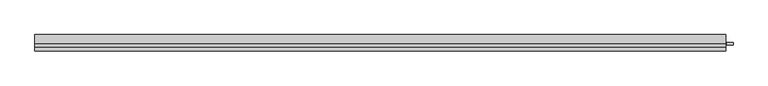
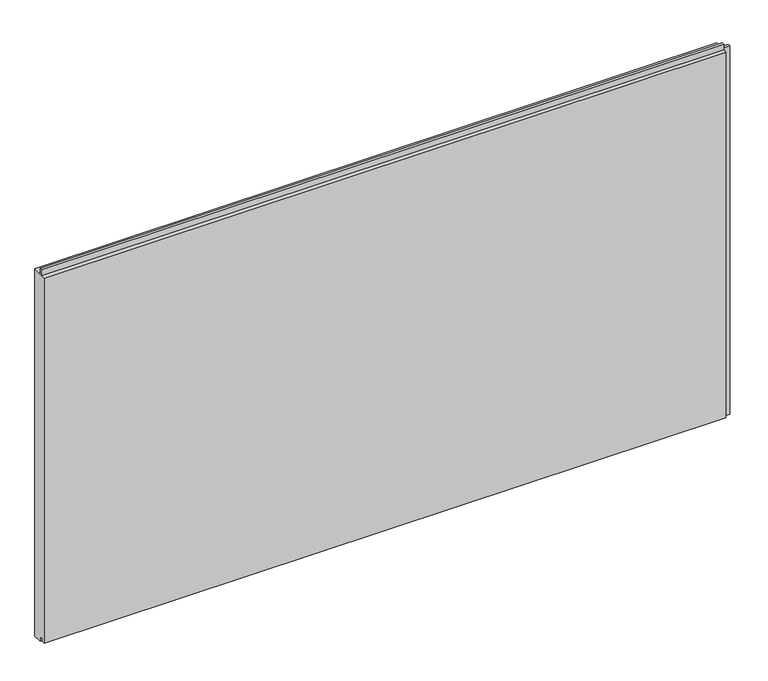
"""IFC4 building model written with IfcOpenShell, lengths in millimetres: plate geometry, Trimo_Qbiss Screen_Normal Panel-HORIZONTAL : HR - FB."""

import ifcopenshell
import ifcopenshell.guid

model = None  # the IFC model being written
_history = None  # IfcOwnerHistory: only IFC2X3 demands one
_inside = {}  # id of a spatial element -> (the spatial element, [elements in it])
_under = {}  # id of a project, library or spatial element -> (it, [spatial elements below it])
_declared = {}  # id of a project -> (the project, [libraries it declares])
_typed = {}  # id of a type object -> (the type object, [elements of that type])
_made_of = {}  # id of a material, layer set ... -> (it, [elements and type objects made of it])


def new_model(schema):
    """Start an empty IFC model of exactly this schema.

    Asked for "IFC4X3", IfcOpenShell would pick the latest addendum, in which some entities
    have other attributes; the version numbers below select the first issue.
    IFC2X3 requires an IfcOwnerHistory on every rooted entity: one is made here for all.
    """
    global model, _history
    if schema == "IFC4X3":
        model = ifcopenshell.file(schema_version=(4, 3, 0, 0))
    else:
        model = ifcopenshell.file(schema=schema)
    _inside.clear()
    _under.clear()
    _declared.clear()
    _typed.clear()
    _made_of.clear()
    _history = None
    if model.schema == "IFC2X3":
        org = make("IfcOrganization", Name="unknown")
        user = make(
            "IfcPersonAndOrganization",
            ThePerson=make("IfcPerson", FamilyName="unknown"),
            TheOrganization=org,
        )
        app = make(
            "IfcApplication",
            ApplicationDeveloper=org,
            Version="unknown",
            ApplicationFullName="unknown",
            ApplicationIdentifier="unknown",
        )
        _history = make(
            "IfcOwnerHistory",
            OwningUser=user,
            OwningApplication=app,
            ChangeAction="ADDED",
            CreationDate=0,
        )
    return model


def make(cls, **values):
    """One entity of the class cls with the attributes given. An attribute that is None is left unset."""
    return model.create_entity(
        cls, **{name: value for name, value in values.items() if value is not None}
    )


def rooted(cls, **values):
    """An entity with a GlobalId (a new one), such as an element, a storey or a relation."""
    return make(cls, GlobalId=ifcopenshell.guid.new(), OwnerHistory=_history, **values)


def si_unit(unit_type, name, prefix=None):
    """IfcSIUnit, for example si_unit("LENGTHUNIT", "METRE", prefix="MILLI")."""
    return make("IfcSIUnit", UnitType=unit_type, Prefix=prefix, Name=name)


def assignment(units):
    """IfcUnitAssignment: the units of a project."""
    return None if units is None else make("IfcUnitAssignment", Units=units)


def point(xyz):
    """IfcCartesianPoint."""
    return None if xyz is None else make("IfcCartesianPoint", Coordinates=xyz)


def direction(xyz):
    """IfcDirection."""
    return None if xyz is None else make("IfcDirection", DirectionRatios=xyz)


def frame(location, z_axis=None, x_axis=None):
    """IfcAxis2Placement3D, a coordinate frame: its origin and axes. An axis left out is left unset."""
    return make(
        "IfcAxis2Placement3D",
        Location=point(location),
        Axis=direction(z_axis),
        RefDirection=direction(x_axis),
    )


def origin():
    """The frame at (0, 0, 0) with its axes left unset."""
    return frame((0.0, 0.0, 0.0))


def place(relative_to, where):
    """IfcLocalPlacement: puts the frame where relative to a parent placement (None: the world)."""
    return make(
        "IfcLocalPlacement", PlacementRelTo=relative_to, RelativePlacement=where
    )


def context(
    kind, dimensions, precision=None, world=None, true_north=None, identifier=None
):
    """IfcGeometricRepresentationContext, for example the 3D "Model" context."""
    return make(
        "IfcGeometricRepresentationContext",
        ContextIdentifier=identifier,
        ContextType=kind,
        CoordinateSpaceDimension=dimensions,
        Precision=precision,
        WorldCoordinateSystem=world,
        TrueNorth=true_north,
    )


def project(units=None, contexts=None):
    """IfcProject with its units and contexts."""
    return rooted(
        "IfcProject",
        Name="project",
        RepresentationContexts=contexts,
        UnitsInContext=assignment(units),
    )


def spatial(cls, under=None, at=None, **own):
    """A site, building, storey or space (cls), placed at a placement, below another one or the project."""
    s = rooted(cls, ObjectPlacement=at, **own)
    if under is not None:
        _under.setdefault(under.id(), (under, []))[1].append(s)
    return s


def polyline(points):
    """IfcPolyline through the points."""
    return make("IfcPolyline", Points=[point(p) for p in points])


def outline(outer, holes=None, kind="AREA"):
    """IfcArbitraryClosedProfileDef: a profile drawn as a closed curve; with holes, ...WithVoids."""
    if holes is None:
        return make("IfcArbitraryClosedProfileDef", ProfileType=kind, OuterCurve=outer)
    return make(
        "IfcArbitraryProfileDefWithVoids",
        ProfileType=kind,
        OuterCurve=outer,
        InnerCurves=holes,
    )


def extrude(swept, where, along, depth):
    """IfcExtrudedAreaSolid: the profile swept, set in the frame where, extruded along a direction by depth."""
    return make(
        "IfcExtrudedAreaSolid",
        SweptArea=swept,
        Position=where,
        ExtrudedDirection=direction(along),
        Depth=depth,
    )


def shape(context_of_items, identifier, shape_type, items):
    """IfcShapeRepresentation: the items that make up one representation, for example the "Body"."""
    return make(
        "IfcShapeRepresentation",
        ContextOfItems=context_of_items,
        RepresentationIdentifier=identifier,
        RepresentationType=shape_type,
        Items=items,
    )


def source(mapping_origin, context_of_items, identifier, shape_type, items):
    """IfcRepresentationMap: a shape defined once, which mapped items show again and again."""
    return make(
        "IfcRepresentationMap",
        MappingOrigin=mapping_origin,
        MappedRepresentation=shape(context_of_items, identifier, shape_type, items),
    )


def transform(
    local_origin,
    x_axis=None,
    y_axis=None,
    z_axis=None,
    scale=None,
    scale2=None,
    scale3=None,
    uniform=True,
):
    """IfcCartesianTransformationOperator3D, or its non-uniform kind. x_axis, y_axis, z_axis: its Axis1, 2, 3."""
    if uniform:
        return make(
            "IfcCartesianTransformationOperator3D",
            Axis1=direction(x_axis),
            Axis2=direction(y_axis),
            LocalOrigin=point(local_origin),
            Scale=scale,
            Axis3=direction(z_axis),
        )
    return make(
        "IfcCartesianTransformationOperator3DnonUniform",
        Axis1=direction(x_axis),
        Axis2=direction(y_axis),
        LocalOrigin=point(local_origin),
        Scale=scale,
        Axis3=direction(z_axis),
        Scale2=scale2,
        Scale3=scale3,
    )


def mapped(mapping_source, mapping_target):
    """IfcMappedItem: shows the shape of a source again, moved by a transform."""
    return make(
        "IfcMappedItem", MappingSource=mapping_source, MappingTarget=mapping_target
    )


def made_of(thing, what):
    """Note that an element or type object is made of a material, layer set ...; save() writes the relation."""
    if what is not None:
        _made_of.setdefault(what.id(), (what, []))[1].append(thing)
    return thing


def element(
    cls,
    number,
    at=None,
    inside=None,
    cuts=None,
    type_object=None,
    material=None,
    context=None,
    identifier="Body",
    shape_type=None,
    held_by="IfcProductDefinitionShape",
    body=None,
    shapes=None,
    **own,
):
    """One element of the class cls, such as IfcWall. Its Tag is "e" and its number.

    at: its placement. inside: the storey or other place that contains it. cuts: it is an
    opening in that element (IfcRelVoidsElement). A single representation is given by context,
    identifier, shape_type and body (its items); several are given by shapes. held_by: the class
    of the entity that holds the representations. save() writes the other relations.
    """
    e = rooted(cls, Tag="e%d" % number, ObjectPlacement=at, **own)
    if body is not None:
        shapes = [shape(context, identifier, shape_type, body)]
    if shapes is not None:
        e.Representation = make(held_by, Representations=shapes)
    if inside is not None:
        _inside.setdefault(inside.id(), (inside, []))[1].append(e)
    if cuts is not None:
        rooted(
            "IfcRelVoidsElement", RelatingBuildingElement=cuts, RelatedOpeningElement=e
        )
    if type_object is not None:
        _typed.setdefault(type_object.id(), (type_object, []))[1].append(e)
    return made_of(e, material)


def aggregate(whole, parts):
    """IfcRelAggregates: a whole, such as a stair, and the parts it consists of."""
    return rooted("IfcRelAggregates", RelatingObject=whole, RelatedObjects=parts)


def save(model, path):
    """Write the relations noted so far, then the file.

    IfcRelAggregates (storeys below a building ...), IfcRelContainedInSpatialStructure (elements
    in a storey), IfcRelDefinesByType, IfcRelAssociatesMaterial and IfcRelDeclares: one each for
    every whole, place, type object, material and project.
    """
    for whole, parts in _under.values():
        aggregate(whole, parts)
    for where, things in _inside.values():
        rooted(
            "IfcRelContainedInSpatialStructure",
            RelatedElements=things,
            RelatingStructure=where,
        )
    for kind, things in _typed.values():
        rooted("IfcRelDefinesByType", RelatedObjects=things, RelatingType=kind)
    for what, things in _made_of.values():
        rooted("IfcRelAssociatesMaterial", RelatedObjects=things, RelatingMaterial=what)
    for by, libraries in _declared.values():
        rooted("IfcRelDeclares", RelatingContext=by, RelatedDefinitions=libraries)
    model.write(path)


def plate_dd6e847a(model_context):
    return source(origin(), model_context, "Body", "SweptSolid", [
        extrude(outline(polyline([(1075.5, 67.8978162), (1075.5, 76.5978162), (1094.5, 76.5978162), (1094.5, 67.8978162), (1075.5, 67.8978162)])), frame((0.0, 0.0, -1.0), z_axis=(0.0, 0.0, 1.0), x_axis=(1.0, 0.0, 0.0)), (0.0, 0.0, 1.0), 1200.0),
        extrude(outline(polyline([(71.0, 1196.0), (100.0, 1196.0), (100.0, 0.0), (72.0, 0.0), (72.0, 15.5), (62.0, 15.5), (62.0, 7.0), (50.0, 7.0), (50.0, 1196.0), (63.0, 1196.0), (63.0, 1214.5), (71.0, 1214.5), (71.0, 1196.0)])), frame((-1026.0, 0.0, 0.0), z_axis=(1.0, 0.0, 0.0), x_axis=(0.0, 1.0, 0.0)), (0.0, 0.0, 1.0), 2098.5),
    ])


if __name__ == "__main__":
    model = new_model("IFC4")
    model_context = context("Model", 3, world=origin())
    ifc_project = project(units=[si_unit("LENGTHUNIT", "METRE", prefix="MILLI")], contexts=[model_context])
    site = spatial("IfcSite", under=ifc_project)
    building = spatial("IfcBuilding", under=site)
    placement = place(None, origin())
    plate_shape = plate_dd6e847a(model_context)
    element("IfcPlate", 1, ObjectType="Trimo_Qbiss Screen_Normal Panel-HORIZONTAL : HR - FB", at=placement, inside=building, context=model_context, shape_type="MappedRepresentation", body=[
        mapped(plate_shape, transform((0.0, 0.0, 0.0), x_axis=(1.0, 0.0, 0.0), y_axis=(0.0, 1.0, 0.0), z_axis=(0.0, 0.0, 1.0))),
    ])
    save(model, "model.ifc")
